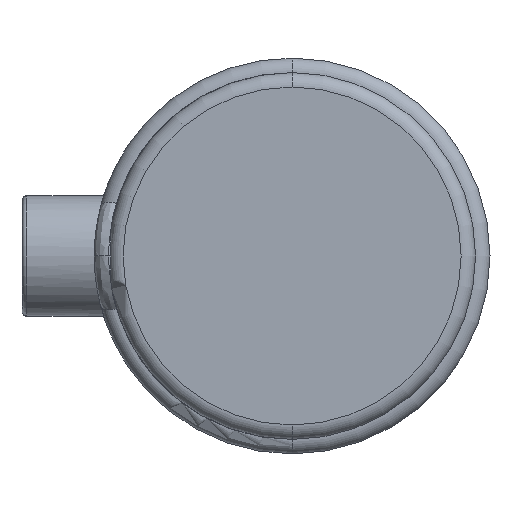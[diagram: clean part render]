
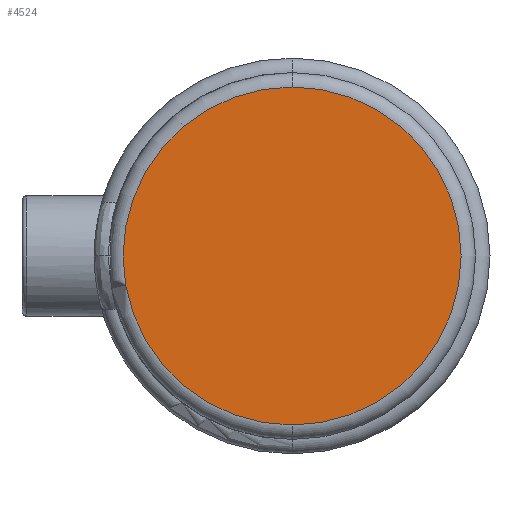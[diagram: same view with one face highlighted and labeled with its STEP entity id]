
A CAD part, left-side view. The second image highlights one B-rep face of the part: STEP entity #4524.
In plain terms, the highlighted planar face has unit normal (-1, 0, 0).
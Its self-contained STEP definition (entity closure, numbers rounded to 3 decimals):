
#39 = DIRECTION ( 'NONE',  ( -1., 0., 0. ) ) ;
#442 = FACE_OUTER_BOUND ( 'NONE', #3700, .T. ) ;
#795 = CIRCLE ( 'NONE', #3090, 35.1 ) ;
#1461 = CARTESIAN_POINT ( 'NONE',  ( 0., 0., 35.1 ) ) ;
#1676 = DIRECTION ( 'NONE',  ( 0., 0., 1. ) ) ;
#1718 = DIRECTION ( 'NONE',  ( -1., 0., 0. ) ) ;
#1957 = VERTEX_POINT ( 'NONE', #1461 ) ;
#2084 = CARTESIAN_POINT ( 'NONE',  ( 0., 0., -35.1 ) ) ;
#2250 = VERTEX_POINT ( 'NONE', #2084 ) ;
#2479 = ORIENTED_EDGE ( 'NONE', *, *, #3655, .T. ) ;
#2718 = CARTESIAN_POINT ( 'NONE',  ( 0., 0., 0. ) ) ;
#2867 = AXIS2_PLACEMENT_3D ( 'NONE', #3878, #4345, #1676 ) ;
#3090 = AXIS2_PLACEMENT_3D ( 'NONE', #2718, #39, #3174 ) ;
#3174 = DIRECTION ( 'NONE',  ( 0., 0., 1. ) ) ;
#3451 = PLANE ( 'NONE',  #2867 ) ;
#3655 = EDGE_CURVE ( 'NONE', #1957, #2250, #795, .T. ) ;
#3700 = EDGE_LOOP ( 'NONE', ( #2479, #5017 ) ) ;
#3758 = AXIS2_PLACEMENT_3D ( 'NONE', #4384, #1718, #4820 ) ;
#3878 = CARTESIAN_POINT ( 'NONE',  ( 0., 0., 0. ) ) ;
#4345 = DIRECTION ( 'NONE',  ( -1., 0., 0. ) ) ;
#4384 = CARTESIAN_POINT ( 'NONE',  ( 0., 0., 0. ) ) ;
#4524 = ADVANCED_FACE ( 'NONE', ( #442 ), #3451, .T. ) ;
#4576 = EDGE_CURVE ( 'NONE', #2250, #1957, #4907, .T. ) ;
#4820 = DIRECTION ( 'NONE',  ( 0., 0., 1. ) ) ;
#4907 = CIRCLE ( 'NONE', #3758, 35.1 ) ;
#5017 = ORIENTED_EDGE ( 'NONE', *, *, #4576, .T. ) ;
